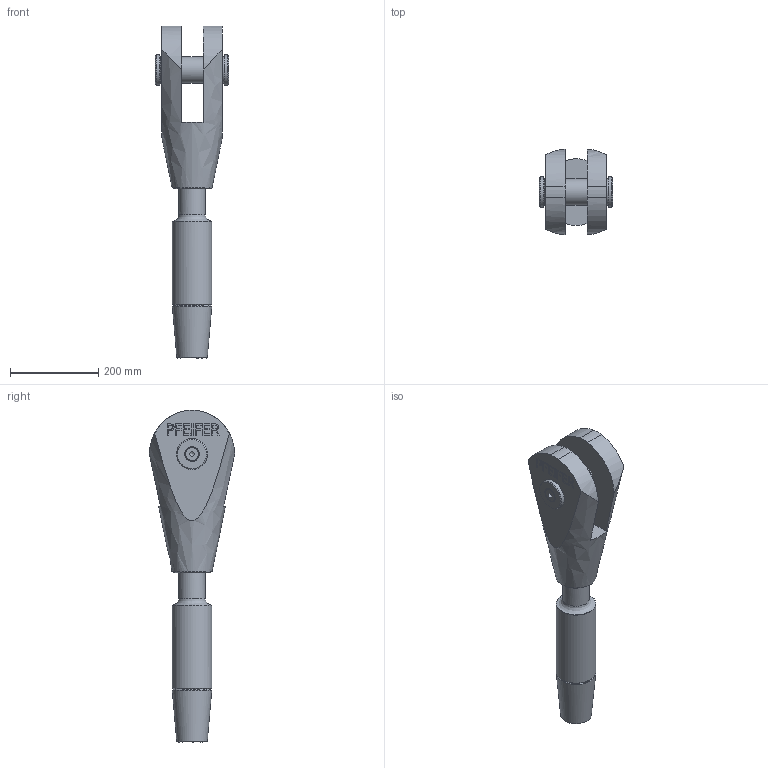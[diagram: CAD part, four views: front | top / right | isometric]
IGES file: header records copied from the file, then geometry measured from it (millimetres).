
Global section: file name: 520-060-GAK-ADA; native system: Autodesk Inventor 2016; preprocessor: unknown; author: Administrator; date: 20200703.131157; units: centimetre
Bounding box: 166.3 x 193.09 x 752.89 mm (x, y, z)
Volume: 6517567.1 mm3; surface area: 416107.6 mm2
Topology: 2 solids, 4 shells, 192 faces, 507 edges, 340 vertices
Faces by surface type: bspline 192
